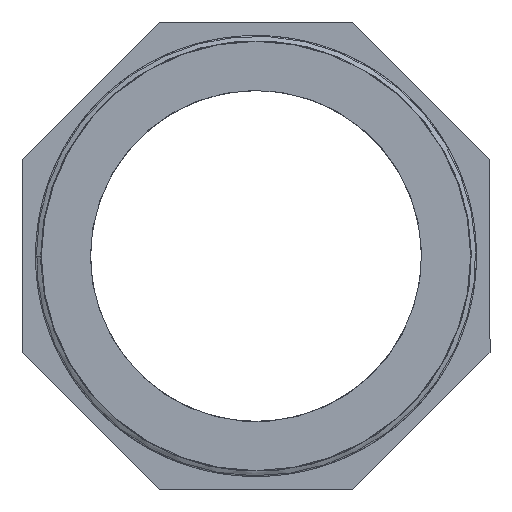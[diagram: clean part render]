
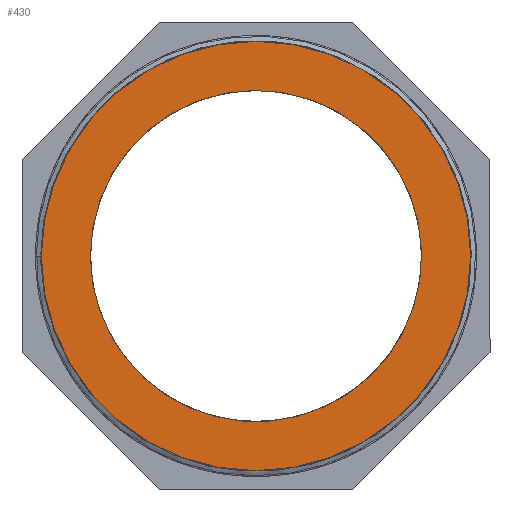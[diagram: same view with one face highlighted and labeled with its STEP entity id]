
A CAD part, front view. The second image highlights one B-rep face of the part: STEP entity #430.
In plain terms, the highlighted planar face has unit normal (0, -1, 0).
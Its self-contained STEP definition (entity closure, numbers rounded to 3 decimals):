
#17=FACE_BOUND('',#93,.T.);
#32=PLANE('',#455);
#37=CIRCLE('',#439,55.036);
#41=CIRCLE('',#454,42.463);
#65=FACE_OUTER_BOUND('',#92,.T.);
#92=EDGE_LOOP('',(#382));
#93=EDGE_LOOP('',(#383));
#186=VERTEX_POINT('',#4760);
#216=VERTEX_POINT('',#12526);
#234=EDGE_CURVE('',#186,#186,#37,.T.);
#276=EDGE_CURVE('',#216,#216,#41,.T.);
#382=ORIENTED_EDGE('',*,*,#234,.T.);
#383=ORIENTED_EDGE('',*,*,#276,.T.);
#430=ADVANCED_FACE('',(#65,#17),#32,.F.);
#439=AXIS2_PLACEMENT_3D('',#7159,#472,#473);
#454=AXIS2_PLACEMENT_3D('',#12527,#529,#530);
#455=AXIS2_PLACEMENT_3D('',#12528,#531,#532);
#472=DIRECTION('center_axis',(0.,-1.,0.));
#473=DIRECTION('ref_axis',(1.,0.,0.));
#529=DIRECTION('center_axis',(0.,1.,0.));
#530=DIRECTION('ref_axis',(1.,0.,0.));
#531=DIRECTION('center_axis',(0.,1.,0.));
#532=DIRECTION('ref_axis',(0.,0.,1.));
#4760=CARTESIAN_POINT('',(-55.036,0.,0.));
#7159=CARTESIAN_POINT('Origin',(0.,0.,0.));
#12526=CARTESIAN_POINT('',(-42.463,0.,0.));
#12527=CARTESIAN_POINT('Origin',(0.,0.,0.));
#12528=CARTESIAN_POINT('Origin',(0.,0.,0.));
